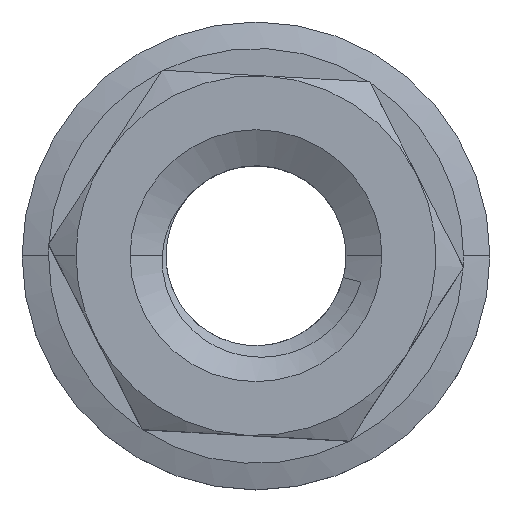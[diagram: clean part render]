
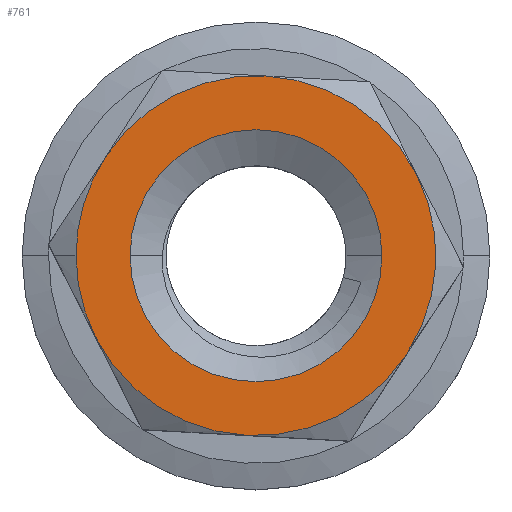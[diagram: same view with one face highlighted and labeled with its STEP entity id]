
A CAD part, top view. The second image highlights one B-rep face of the part: STEP entity #761.
In plain terms, the highlighted planar face has unit normal (0, 0, 1).
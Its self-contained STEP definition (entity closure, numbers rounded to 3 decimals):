
#3 = CIRCLE ( 'NONE', #1854, 3.5 ) ;
#29 = VERTEX_POINT ( 'NONE', #333 ) ;
#47 = EDGE_CURVE ( 'NONE', #427, #727, #93, .T. ) ;
#60 = CIRCLE ( 'NONE', #1767, 5. ) ;
#78 = CARTESIAN_POINT ( 'NONE',  ( 0., 0., 6. ) ) ;
#93 = CIRCLE ( 'NONE', #1155, 5. ) ;
#127 = CARTESIAN_POINT ( 'NONE',  ( 3.5, 0., 6. ) ) ;
#131 = CARTESIAN_POINT ( 'NONE',  ( 0., 0., 6. ) ) ;
#209 = DIRECTION ( 'NONE',  ( 1., 0., 0. ) ) ;
#268 = VERTEX_POINT ( 'NONE', #1140 ) ;
#311 = EDGE_CURVE ( 'NONE', #268, #2044, #2268, .T. ) ;
#333 = CARTESIAN_POINT ( 'NONE',  ( -5., 0., 6. ) ) ;
#369 = EDGE_CURVE ( 'NONE', #2249, #1248, #1242, .T. ) ;
#404 = EDGE_CURVE ( 'NONE', #727, #268, #506, .T. ) ;
#427 = VERTEX_POINT ( 'NONE', #1355 ) ;
#461 = DIRECTION ( 'NONE',  ( 0., 0., 1. ) ) ;
#506 = CIRCLE ( 'NONE', #972, 5. ) ;
#557 = ORIENTED_EDGE ( 'NONE', *, *, #679, .T. ) ;
#566 = ORIENTED_EDGE ( 'NONE', *, *, #369, .F. ) ;
#593 = DIRECTION ( 'NONE',  ( 1., 0., 0. ) ) ;
#608 = FACE_BOUND ( 'NONE', #1819, .T. ) ;
#670 = CARTESIAN_POINT ( 'NONE',  ( 0., 0., 6. ) ) ;
#671 = VERTEX_POINT ( 'NONE', #1351 ) ;
#679 = EDGE_CURVE ( 'NONE', #1984, #671, #1161, .T. ) ;
#686 = DIRECTION ( 'NONE',  ( 1., 0., 0. ) ) ;
#699 = EDGE_CURVE ( 'NONE', #29, #427, #60, .T. ) ;
#704 = CARTESIAN_POINT ( 'NONE',  ( 0., 0., 6. ) ) ;
#727 = VERTEX_POINT ( 'NONE', #991 ) ;
#758 = AXIS2_PLACEMENT_3D ( 'NONE', #1900, #1664, #1427 ) ;
#761 = ADVANCED_FACE ( 'NONE', ( #608, #1795 ), #2135, .T. ) ;
#839 = DIRECTION ( 'NONE',  ( 0., 0., 1. ) ) ;
#925 = DIRECTION ( 'NONE',  ( 0., 0., 1. ) ) ;
#972 = AXIS2_PLACEMENT_3D ( 'NONE', #1173, #925, #686 ) ;
#991 = CARTESIAN_POINT ( 'NONE',  ( -0.276, -4.992, 6. ) ) ;
#1079 = CARTESIAN_POINT ( 'NONE',  ( 0., 0., 6. ) ) ;
#1084 = AXIS2_PLACEMENT_3D ( 'NONE', #1079, #839, #593 ) ;
#1140 = CARTESIAN_POINT ( 'NONE',  ( 4.186, -2.735, 6. ) ) ;
#1155 = AXIS2_PLACEMENT_3D ( 'NONE', #1969, #1499, #1256 ) ;
#1161 = CIRCLE ( 'NONE', #1651, 3.5 ) ;
#1173 = CARTESIAN_POINT ( 'NONE',  ( 0., 0., 6. ) ) ;
#1193 = ORIENTED_EDGE ( 'NONE', *, *, #699, .T. ) ;
#1226 = EDGE_CURVE ( 'NONE', #2249, #29, #1536, .T. ) ;
#1242 = CIRCLE ( 'NONE', #1420, 5. ) ;
#1248 = VERTEX_POINT ( 'NONE', #1705 ) ;
#1256 = DIRECTION ( 'NONE',  ( 1., 0., 0. ) ) ;
#1351 = CARTESIAN_POINT ( 'NONE',  ( -3.5, 0., 6. ) ) ;
#1355 = CARTESIAN_POINT ( 'NONE',  ( -4.461, -2.257, 6. ) ) ;
#1420 = AXIS2_PLACEMENT_3D ( 'NONE', #670, #2292, #2052 ) ;
#1427 = DIRECTION ( 'NONE',  ( 1., 0., 0. ) ) ;
#1494 = DIRECTION ( 'NONE',  ( 1., 0., 0. ) ) ;
#1499 = DIRECTION ( 'NONE',  ( 0., 0., 1. ) ) ;
#1520 = DIRECTION ( 'NONE',  ( 1., 0., 0. ) ) ;
#1536 = CIRCLE ( 'NONE', #2078, 5. ) ;
#1549 = ORIENTED_EDGE ( 'NONE', *, *, #1768, .T. ) ;
#1602 = ORIENTED_EDGE ( 'NONE', *, *, #47, .T. ) ;
#1630 = EDGE_CURVE ( 'NONE', #671, #1984, #3, .T. ) ;
#1644 = EDGE_LOOP ( 'NONE', ( #1945, #1549, #566, #1997, #1193, #1602, #2053 ) ) ;
#1651 = AXIS2_PLACEMENT_3D ( 'NONE', #131, #2244, #2006 ) ;
#1664 = DIRECTION ( 'NONE',  ( 0., 0., 1. ) ) ;
#1705 = CARTESIAN_POINT ( 'NONE',  ( 0.276, 4.992, 6. ) ) ;
#1729 = DIRECTION ( 'NONE',  ( 0., 0., -1. ) ) ;
#1752 = DIRECTION ( 'NONE',  ( 0., 0., 1. ) ) ;
#1767 = AXIS2_PLACEMENT_3D ( 'NONE', #78, #2189, #1954 ) ;
#1768 = EDGE_CURVE ( 'NONE', #2044, #1248, #1826, .T. ) ;
#1795 = FACE_OUTER_BOUND ( 'NONE', #1644, .T. ) ;
#1819 = EDGE_LOOP ( 'NONE', ( #557, #1998 ) ) ;
#1826 = CIRCLE ( 'NONE', #2083, 5. ) ;
#1854 = AXIS2_PLACEMENT_3D ( 'NONE', #1965, #1729, #1494 ) ;
#1900 = CARTESIAN_POINT ( 'NONE',  ( 0., 0., 6. ) ) ;
#1945 = ORIENTED_EDGE ( 'NONE', *, *, #311, .T. ) ;
#1953 = CARTESIAN_POINT ( 'NONE',  ( -4.186, 2.735, 6. ) ) ;
#1954 = DIRECTION ( 'NONE',  ( 1., 0., 0. ) ) ;
#1965 = CARTESIAN_POINT ( 'NONE',  ( 0., 0., 6. ) ) ;
#1969 = CARTESIAN_POINT ( 'NONE',  ( 0., 0., 6. ) ) ;
#1984 = VERTEX_POINT ( 'NONE', #127 ) ;
#1986 = CARTESIAN_POINT ( 'NONE',  ( 0., 0., 6. ) ) ;
#1997 = ORIENTED_EDGE ( 'NONE', *, *, #1226, .T. ) ;
#1998 = ORIENTED_EDGE ( 'NONE', *, *, #1630, .T. ) ;
#2006 = DIRECTION ( 'NONE',  ( 1., 0., 0. ) ) ;
#2044 = VERTEX_POINT ( 'NONE', #2161 ) ;
#2052 = DIRECTION ( 'NONE',  ( -1., 0., 0. ) ) ;
#2053 = ORIENTED_EDGE ( 'NONE', *, *, #404, .T. ) ;
#2078 = AXIS2_PLACEMENT_3D ( 'NONE', #1986, #1752, #1520 ) ;
#2083 = AXIS2_PLACEMENT_3D ( 'NONE', #704, #461, #209 ) ;
#2135 = PLANE ( 'NONE',  #758 ) ;
#2161 = CARTESIAN_POINT ( 'NONE',  ( 4.461, 2.257, 6. ) ) ;
#2189 = DIRECTION ( 'NONE',  ( 0., 0., 1. ) ) ;
#2244 = DIRECTION ( 'NONE',  ( 0., 0., -1. ) ) ;
#2249 = VERTEX_POINT ( 'NONE', #1953 ) ;
#2268 = CIRCLE ( 'NONE', #1084, 5. ) ;
#2292 = DIRECTION ( 'NONE',  ( 0., 0., -1. ) ) ;
